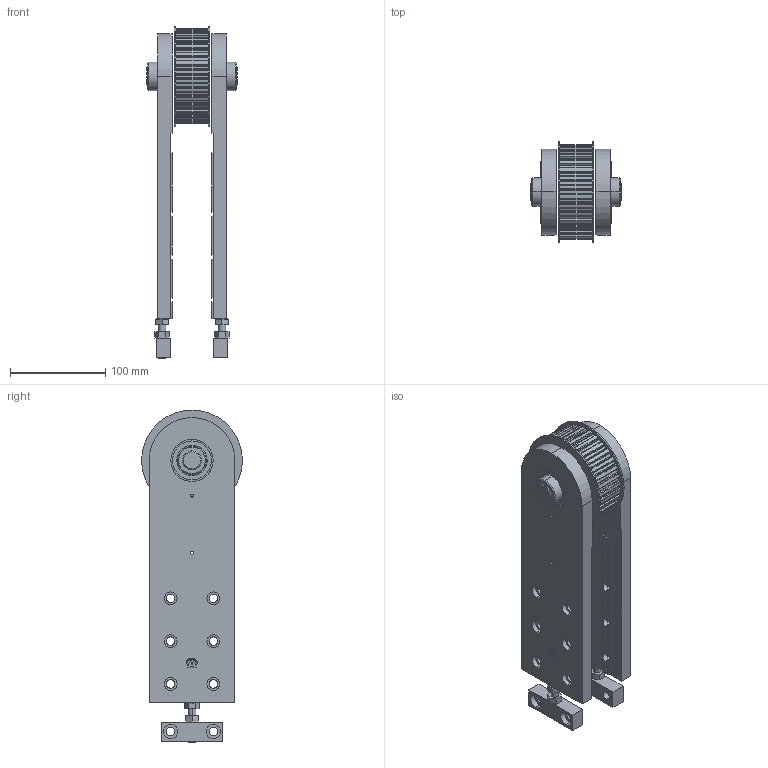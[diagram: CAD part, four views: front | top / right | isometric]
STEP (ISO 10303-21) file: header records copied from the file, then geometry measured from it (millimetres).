
FILE_DESCRIPTION (( 'STEP AP203' ), '1' );
FILE_NAME ('084.095.KIT.032.STEP', '2017-04-03T07:57:06', ( 'Localadmin' ), ( 'Microsoft' ), 'SwSTEP 2.0', 'SolidWorks 2016', '' );
FILE_SCHEMA (( 'CONFIG_CONTROL_DESIGN' ));
Length unit declared in the file: millimetre
Products named in the file (1): 084.095.KIT.032
Bounding box: 95 x 106 x 349 mm (x, y, z)
Surface area: 189805.3 mm2 (no closed solid volume)
Topology: 0 solids, 15 shells, 555 faces, 1744 edges, 1196 vertices
Faces by surface type: cylinder 284, plane 231, bspline 20, cone 16, sphere 4
Entity records: 20173 total; most frequent: CARTESIAN_POINT 4280, DIRECTION 3378, ORIENTED_EDGE 3232, EDGE_CURVE 1736, AXIS2_PLACEMENT_3D 1234, VERTEX_POINT 1192, LINE 910, VECTOR 910
